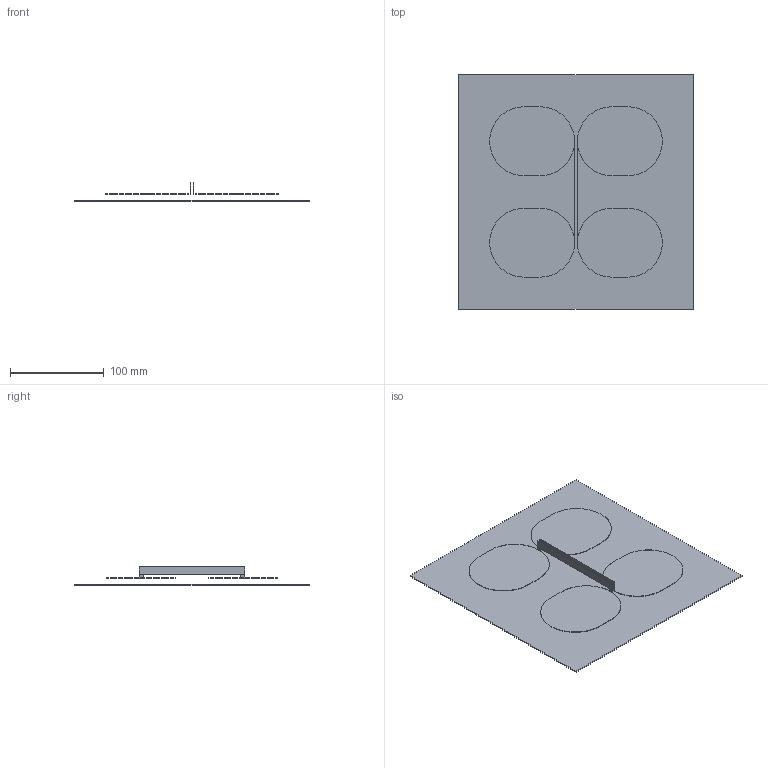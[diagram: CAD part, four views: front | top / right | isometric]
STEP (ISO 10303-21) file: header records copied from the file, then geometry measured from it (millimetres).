
FILE_DESCRIPTION(('STEP AP214'),'1');
FILE_NAME('C:/Documents and Settings/Owner/Desktop/vman1.stp','2015-02-14T19:31:20',('Owner'),(' '),'Spatial InterOp 3D','CST ACIS InterOp Converter 2009',' ');
FILE_SCHEMA(('automotive_design'));
Length unit declared in the file: millimetre
Products named in the file (11): component1|solid1; component1|solid2; component1|solid3; component1|solid7; component1|solid1_1; component1|solid1_2; component1|solid1_1_1; component1|solid2_1; component1|solid3_1; component1|solid3_2; component1|solid3_1_1
Bounding box: 250 x 250 x 19.65 mm (x, y, z)
Volume: 74415.7 mm3; surface area: 174464.4 mm2
Topology: 11 solids, 11 shells, 74 faces, 156 edges, 104 vertices
Faces by surface type: plane 58, cylinder 16
Entity records: 2819 total; most frequent: DIRECTION 358, CARTESIAN_POINT 345, ORIENTED_EDGE 312, EDGE_CURVE 156, LINE 124, VECTOR 124, AXIS2_PLACEMENT_3D 117, VERTEX_POINT 104
